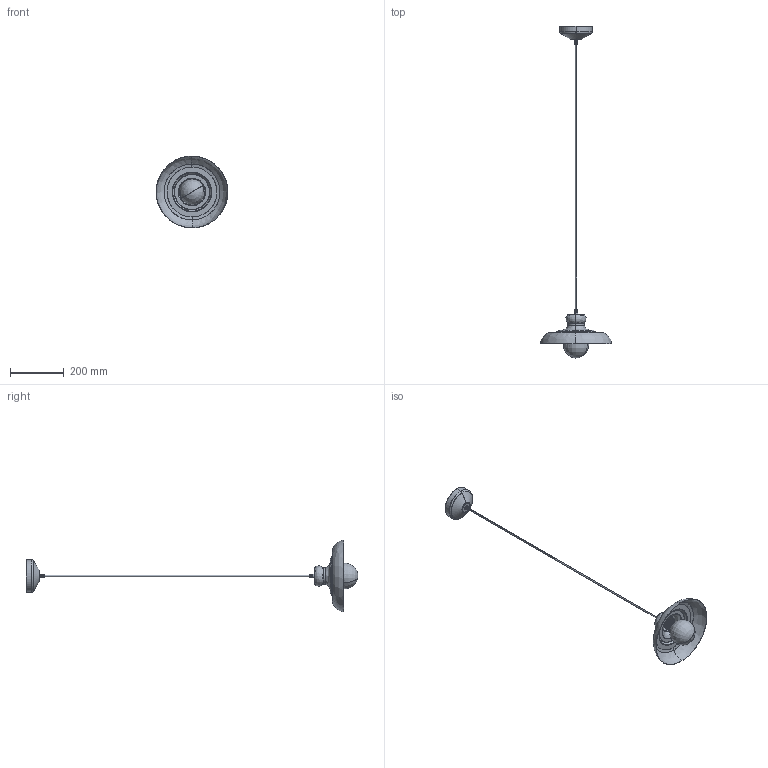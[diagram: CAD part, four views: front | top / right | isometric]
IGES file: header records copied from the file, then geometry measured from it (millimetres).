
Start section: SolidWorks IGES file using analytic representation for surfaces
Global section: file name: E:\3D lampy\Concrete\Concrete C\Concrete C.IGS; native system: SolidWorks 2016; preprocessor: SolidWorks 2016; author: Asia; date: 160923.094217; units: millimetre
Bounding box: 265.96 x 1230.76 x 265.96 mm (x, y, z)
Surface area: 312846 mm2 (no closed solid volume)
Topology: 0 solids, 0 shells, 1105 faces, 10740 edges, 10739 vertices
Faces by surface type: bspline 621, revolution 484
